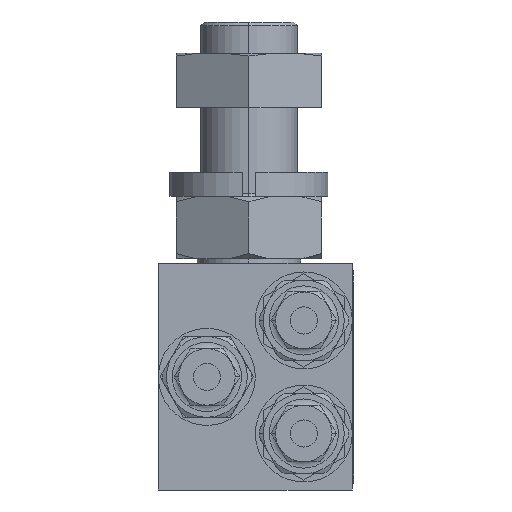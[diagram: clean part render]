
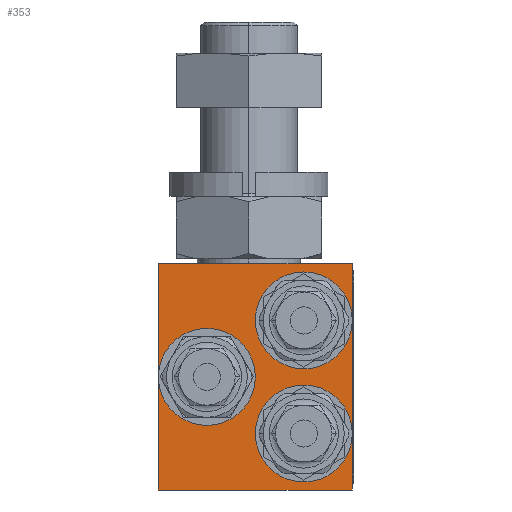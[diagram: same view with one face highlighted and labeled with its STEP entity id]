
A CAD part, left-side view. The second image highlights one B-rep face of the part: STEP entity #353.
In plain terms, the highlighted planar face has unit normal (-1, 0, 0).
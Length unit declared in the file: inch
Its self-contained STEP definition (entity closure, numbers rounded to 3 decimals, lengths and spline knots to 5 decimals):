
#1=DIRECTION('',(0.,-1.,0.));
#2=VECTOR('',#1,1.5);
#3=CARTESIAN_POINT('',(-0.5,0.75,0.));
#4=LINE('',#3,#2);
#17=CARTESIAN_POINT('',(-0.5,0.375,0.875));
#18=DIRECTION('',(-1.,0.,0.));
#19=DIRECTION('',(0.,1.,0.));
#20=AXIS2_PLACEMENT_3D('',#17,#18,#19);
#22=CARTESIAN_POINT('',(-0.5,0.375,0.875));
#23=DIRECTION('',(-1.,0.,0.));
#24=DIRECTION('',(0.,-1.,0.));
#25=AXIS2_PLACEMENT_3D('',#22,#23,#24);
#27=DIRECTION('',(0.,0.,1.));
#28=VECTOR('',#27,0.875);
#29=CARTESIAN_POINT('',(-0.5,0.75,0.875));
#30=LINE('',#29,#28);
#31=CARTESIAN_POINT('',(-0.5,-0.375,1.312));
#32=DIRECTION('',(-1.,0.,0.));
#33=DIRECTION('',(0.,-1.,0.));
#34=AXIS2_PLACEMENT_3D('',#31,#32,#33);
#36=CARTESIAN_POINT('',(-0.5,-0.375,1.312));
#37=DIRECTION('',(-1.,0.,0.));
#38=DIRECTION('',(0.,1.,0.));
#39=AXIS2_PLACEMENT_3D('',#36,#37,#38);
#41=CARTESIAN_POINT('',(-0.5,-0.375,0.437));
#42=DIRECTION('',(-1.,0.,0.));
#43=DIRECTION('',(0.,-1.,0.));
#44=AXIS2_PLACEMENT_3D('',#41,#42,#43);
#46=CARTESIAN_POINT('',(-0.5,-0.375,0.437));
#47=DIRECTION('',(-1.,0.,0.));
#48=DIRECTION('',(0.,1.,0.));
#49=AXIS2_PLACEMENT_3D('',#46,#47,#48);
#51=DIRECTION('',(0.,0.,1.));
#52=VECTOR('',#51,0.875);
#53=CARTESIAN_POINT('',(-0.5,0.75,0.));
#54=LINE('',#53,#52);
#141=DIRECTION('',(0.,0.,1.));
#142=VECTOR('',#141,0.437);
#143=CARTESIAN_POINT('',(-0.5,-0.75,0.));
#144=LINE('',#143,#142);
#145=DIRECTION('',(0.,0.,1.));
#146=VECTOR('',#145,0.875);
#147=CARTESIAN_POINT('',(-0.5,-0.75,0.437));
#148=LINE('',#147,#146);
#149=DIRECTION('',(0.,0.,1.));
#150=VECTOR('',#149,0.438);
#151=CARTESIAN_POINT('',(-0.5,-0.75,1.312));
#152=LINE('',#151,#150);
#153=DIRECTION('',(0.,-1.,0.));
#154=VECTOR('',#153,1.5);
#155=CARTESIAN_POINT('',(-0.5,0.75,1.75));
#156=LINE('',#155,#154);
#241=CARTESIAN_POINT('',(-0.5,0.75,0.));
#242=CARTESIAN_POINT('',(-0.5,-0.75,0.));
#243=VERTEX_POINT('',#241);
#244=VERTEX_POINT('',#242);
#249=CARTESIAN_POINT('',(-0.5,0.75,1.75));
#250=CARTESIAN_POINT('',(-0.5,-0.75,1.75));
#251=VERTEX_POINT('',#249);
#252=VERTEX_POINT('',#250);
#259=CARTESIAN_POINT('',(-0.5,-0.75,1.312));
#260=VERTEX_POINT('',#259);
#279=CARTESIAN_POINT('',(-0.5,0.,1.312));
#280=VERTEX_POINT('',#279);
#285=CARTESIAN_POINT('',(-0.5,0.,0.437));
#286=CARTESIAN_POINT('',(-0.5,-0.75,0.437));
#287=VERTEX_POINT('',#285);
#288=VERTEX_POINT('',#286);
#301=CARTESIAN_POINT('',(-0.5,0.75,0.875));
#302=CARTESIAN_POINT('',(-0.5,0.,0.875));
#303=VERTEX_POINT('',#301);
#304=VERTEX_POINT('',#302);
#321=CARTESIAN_POINT('',(-0.5,0.75,0.));
#322=DIRECTION('',(-1.,0.,0.));
#323=DIRECTION('',(0.,-1.,0.));
#324=AXIS2_PLACEMENT_3D('',#321,#322,#323);
#325=PLANE('',#324);
#327=ORIENTED_EDGE('',*,*,#326,.T.);
#329=ORIENTED_EDGE('',*,*,#328,.T.);
#331=ORIENTED_EDGE('',*,*,#330,.T.);
#333=ORIENTED_EDGE('',*,*,#332,.T.);
#335=ORIENTED_EDGE('',*,*,#334,.F.);
#337=ORIENTED_EDGE('',*,*,#336,.T.);
#339=ORIENTED_EDGE('',*,*,#338,.T.);
#341=ORIENTED_EDGE('',*,*,#340,.F.);
#343=ORIENTED_EDGE('',*,*,#342,.T.);
#345=ORIENTED_EDGE('',*,*,#344,.T.);
#347=ORIENTED_EDGE('',*,*,#346,.F.);
#348=ORIENTED_EDGE('',*,*,#310,.F.);
#350=ORIENTED_EDGE('',*,*,#349,.T.);
#351=EDGE_LOOP('',(#327,#329,#331,#333,#335,#337,#339,#341,#343,#345,#347,#348,
#350));
#352=FACE_OUTER_BOUND('',#351,.F.);
#353=ADVANCED_FACE('',(#352),#325,.T.);
#21=CIRCLE('',#20,0.375);
#26=CIRCLE('',#25,0.375);
#35=CIRCLE('',#34,0.375);
#40=CIRCLE('',#39,0.375);
#45=CIRCLE('',#44,0.375);
#50=CIRCLE('',#49,0.375);
#310=EDGE_CURVE('',#243,#244,#4,.T.);
#326=EDGE_CURVE('',#303,#304,#21,.T.);
#328=EDGE_CURVE('',#304,#303,#26,.T.);
#330=EDGE_CURVE('',#303,#251,#30,.T.);
#332=EDGE_CURVE('',#251,#252,#156,.T.);
#334=EDGE_CURVE('',#260,#252,#152,.T.);
#336=EDGE_CURVE('',#260,#280,#35,.T.);
#338=EDGE_CURVE('',#280,#260,#40,.T.);
#340=EDGE_CURVE('',#288,#260,#148,.T.);
#342=EDGE_CURVE('',#288,#287,#45,.T.);
#344=EDGE_CURVE('',#287,#288,#50,.T.);
#346=EDGE_CURVE('',#244,#288,#144,.T.);
#349=EDGE_CURVE('',#243,#303,#54,.T.);
